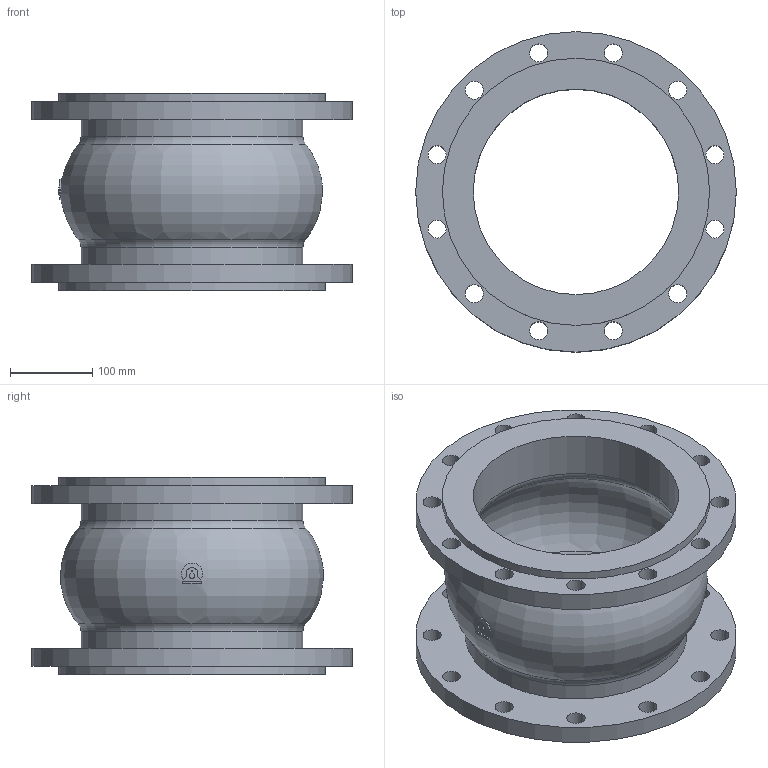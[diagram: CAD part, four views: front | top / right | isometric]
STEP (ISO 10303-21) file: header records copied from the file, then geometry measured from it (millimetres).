
FILE_DESCRIPTION(('STEP AP203'), '1');
FILE_NAME('Êîìïåíñàòîð KMS DN250 PN10_L240', '', ('UNSPECIFIED'), ('UNSPECIFIED'), 'ASCON STEP Converter 1.6', 'ASCON Math Kernel', '');
FILE_SCHEMA(('CONFIG_CONTROL_DESIGN'));
Length unit declared in the file: millimetre
Bounding box: 390 x 390 x 240 mm (x, y, z)
Volume: 5258735.1 mm3; surface area: 743693.3 mm2
Topology: 1 solids, 1 shells, 61 faces, 148 edges, 96 vertices
Faces by surface type: cylinder 39, plane 13, torus 9
Full cylindrical faces by diameter (mm): 22 x24, 250 x2, 270 x2, 325 x2, 390 x2
Entity records: 2973 total; most frequent: CARTESIAN_POINT 1040, DIRECTION 286, ORIENTED_EDGE 220, EDGE_LOOP 156, AXIS2_PLACEMENT_3D 136, EDGE_CURVE 110, VERTEX_POINT 96, FACE_BOUND 80
